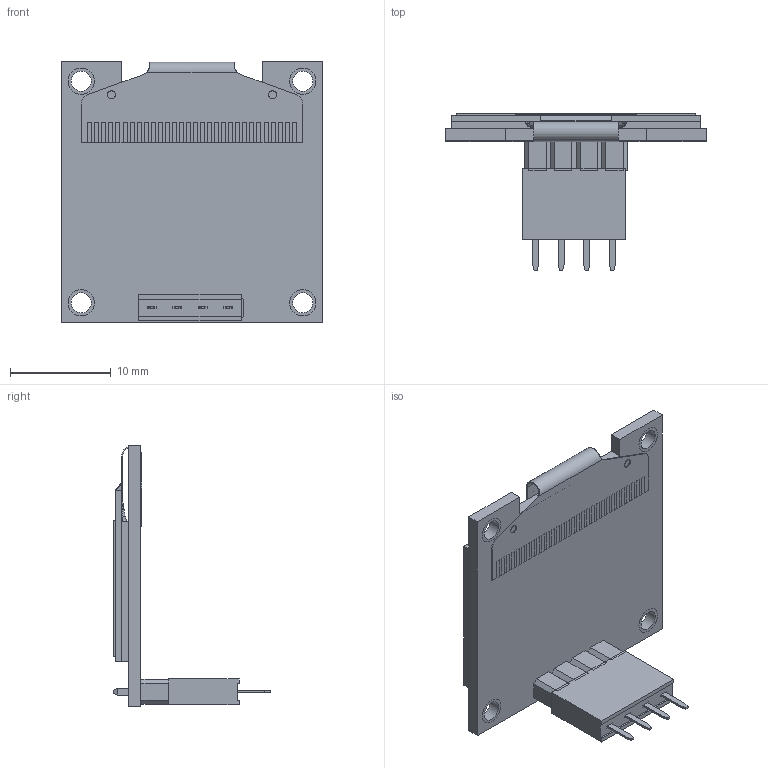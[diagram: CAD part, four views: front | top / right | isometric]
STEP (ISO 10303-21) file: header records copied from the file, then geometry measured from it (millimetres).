
FILE_DESCRIPTION(/* description */ (''),/* implementation_level */ '2;1');
FILE_NAME(/* name */ 'OLED.step',/* time_stamp */ '2023-08-23T16:58:10-04:00',/* author */ (''),/* organization */ (''),/* preprocessor_version */ 'ST-DEVELOPER v20',/* originating_system */ 'Autodesk Translation Framework v12.9.0.99',/* authorisation */ '');
FILE_SCHEMA (('AUTOMOTIVE_DESIGN { 1 0 10303 214 3 1 1 }'));
Length unit declared in the file: millimetre
Products named in the file (3): DM-OLED096-636--3DModel-STEP-56544; DM-OLED096-636_Module; DM-OLED096-636_Panel
Assembly tree (2 placements, depth 2):
  DM-OLED096-636--3DModel-STEP-56544
    DM-OLED096-636_Module
    DM-OLED096-636_Panel
Bounding box: 26 x 15.55 x 26 mm (x, y, z)
Volume: 1597.9 mm3; surface area: 5575.9 mm2
Topology: 59 solids, 59 shells, 719 faces, 1710 edges, 1122 vertices
Faces by surface type: plane 663, cylinder 46, bspline 8, torus 2
Full cylindrical faces by diameter (mm): 0.8 x2, 1 x4, 1.3 x6, 2 x4, 2.6 x8
Entity records: 20958 total; most frequent: CARTESIAN_POINT 3940, ORIENTED_EDGE 3420, DIRECTION 3224, EDGE_CURVE 1710, LINE 1584, VECTOR 1584, VERTEX_POINT 1122, AXIS2_PLACEMENT_3D 820
